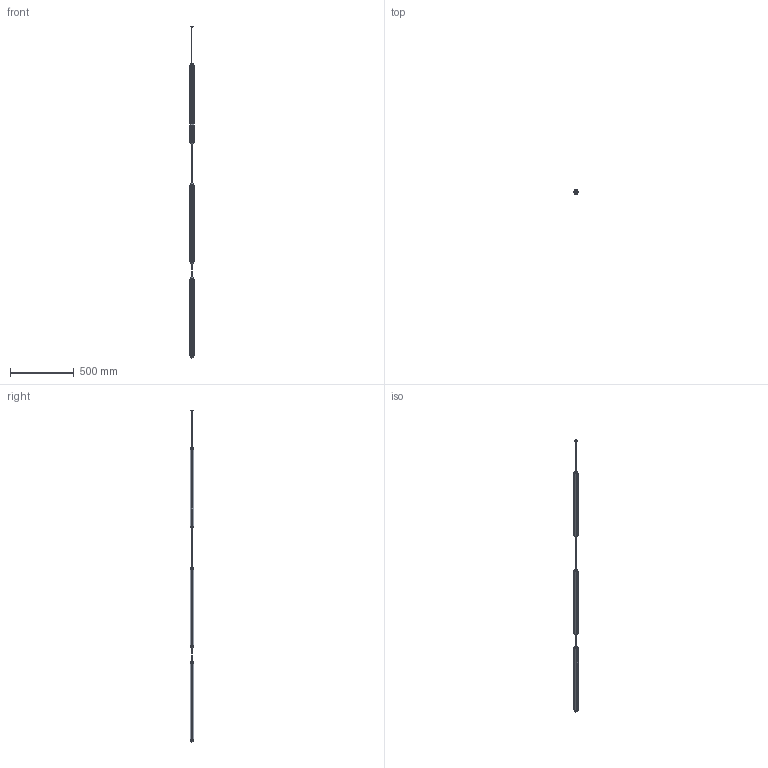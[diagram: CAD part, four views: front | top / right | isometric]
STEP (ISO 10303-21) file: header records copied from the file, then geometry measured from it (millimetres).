
FILE_DESCRIPTION(/* description */ (''),/* implementation_level */ '2;1');
FILE_NAME(/* name */ '64642-131_3d',/* time_stamp */ '2026-05-26T11:16:52+02:00',/* author */ (''),/* organization */ (''),/* preprocessor_version */ 'ST-DEVELOPER v19.2',/* originating_system */ 'Rhino 8.30',/* authorisation */ '');
FILE_SCHEMA (('CONFIG_CONTROL_DESIGN'));
Length unit declared in the file: millimetre
Products named in the file (3): Document; Block 09; Block 11
Bounding box: 33.58 x 29.28 x 2601.47 mm (x, y, z)
Volume: 663975.7 mm3; surface area: 312296.5 mm2
Topology: 6 solids, 131 shells, 262 faces, 1103 edges, 957 vertices
Faces by surface type: cylinder 151, plane 99, bspline 12
Entity records: 8341 total; most frequent: CARTESIAN_POINT 3393, ORIENTED_EDGE 968, DIRECTION 647, EDGE_CURVE 586, VERTEX_POINT 452, AXIS2_PLACEMENT_3D 409, B_SPLINE_CURVE_WITH_KNOTS 334, CIRCLE 224
